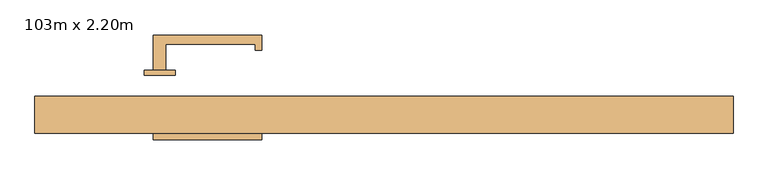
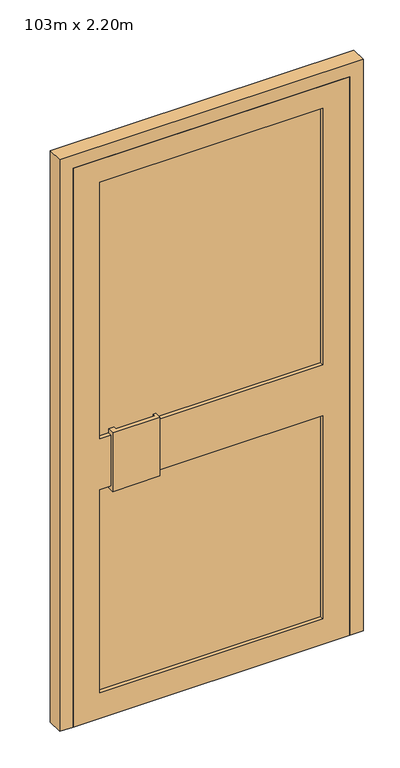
"""IFC4 building model written with IfcOpenShell, lengths in millimetres: door geometry, PVC Panneau Vitré - Traverse : 103m x 2.20m."""

from ifc_helpers import new_model, si_unit, point, frame, origin, place, context, project, spatial, polyline, ellipse_curve, trimmed, outline, extrude, faceted_brep, source, transform, mapped, element, save
from ifc_brep_helpers import plane_surface, extruded_surface, advanced_brep


def door_103m_x_2_20m_767e410a(model_context):
    return source(origin(), model_context, "Body", "SolidModel", [
        advanced_brep(
        [(-338.2140438, -40.7312497, 875.0), (-338.2140438, -40.7312497, 1125.0), (-388.2140438, -40.7312497, 1125.0), (-388.2140438, -40.7312497, 875.0), (-363.1067757, -40.7312497, 953.6170149), (-363.1067757, -40.7312497, 913.6170149), (-338.2140438, -32.7312497, 875.0), (-388.2140438, -32.7312497, 875.0), (-388.2140438, -32.7312497, 1125.0), (-338.2140438, -32.7312497, 1125.0), (-363.1067757, -32.7312497, 953.6170149), (-363.1067757, -32.7312497, 913.6170149)],
        [
            (0, 1),
            (1, 2),
            (2, 3),
            (3, 0),
            (4, 5, ellipse_curve(frame((-363.1067757, -40.7312497, 933.6170149), z_axis=(0.0, 1.0, 0.0), x_axis=(0.0, 0.0, -1.0)), 20.0, 7.0010983)),
            (5, 4, ellipse_curve(frame((-363.1067757, -40.7312497, 933.6170149), z_axis=(0.0, 1.0, 0.0), x_axis=(0.0, 0.0, -1.0)), 20.0, 7.0010983)),
            (6, 7),
            (7, 8),
            (8, 9),
            (9, 6),
            (10, 11, ellipse_curve(frame((-363.1067757, -32.7312497, 933.6170149), z_axis=(0.0, -1.0, 0.0), x_axis=(0.0, 0.0, -1.0)), 20.0, 7.0010983)),
            (11, 10, ellipse_curve(frame((-363.1067757, -32.7312497, 933.6170149), z_axis=(0.0, -1.0, 0.0), x_axis=(0.0, 0.0, -1.0)), 20.0, 7.0010983)),
            (0, 6),
            (9, 1),
            (8, 2),
            (7, 3),
            (4, 10),
            (11, 5),
        ],
        [
            plane_surface(frame((-338.2140438, -40.7312497, 1100.0), z_axis=(0.0, -1.0, 0.0), x_axis=(0.0, 0.0, 1.0))),
            plane_surface(frame((-338.2140438, -32.7312497, 1100.0), z_axis=(0.0, 1.0, 0.0), x_axis=(0.0, 0.0, -1.0))),
            plane_surface(frame((-338.2140438, -40.7312497, 875.0), z_axis=(1.0, 0.0, 0.0), x_axis=(0.0, 1.0, 0.0))),
            plane_surface(frame((-338.2140438, -40.7312497, 1125.0), z_axis=(0.0, 0.0, 1.0), x_axis=(0.0, 1.0, 0.0))),
            plane_surface(frame((-388.2140438, -40.7312497, 1125.0), z_axis=(-1.0, 0.0, 0.0), x_axis=(0.0, 1.0, 0.0))),
            plane_surface(frame((-388.2140438, -40.7312497, 875.0), z_axis=(0.0, 0.0, -1.0), x_axis=(0.0, 1.0, 0.0))),
            extruded_surface(trimmed(ellipse_curve(frame((-363.1067757, -24.7312497, 933.6170149), z_axis=(0.0, 1.0, 0.0), x_axis=(0.0, 0.0, -1.0)), 20.0, 7.0010983), [point((-363.1067757, -24.7312497, 953.6170149))], [point((-363.1067757, -24.7312497, 913.6170149))], True, "CARTESIAN"), (0.0, -8.0, 0.0), 8.0),
            extruded_surface(trimmed(ellipse_curve(frame((-363.1067757, -24.7312497, 933.6170149), z_axis=(0.0, 1.0, 0.0), x_axis=(0.0, 0.0, -1.0)), 20.0, 7.0010983), [point((-363.1067757, -24.7312497, 913.6170149))], [point((-363.1067757, -24.7312497, 953.6170149))], True, "CARTESIAN"), (0.0, -8.0, 0.0), 8.0),
        ],
        [
            (0, [[1, 2, 3, 4], [5, 6]]),
            (1, [[7, 8, 9, 10], [11, 12]]),
            (2, [[-1, 13, -10, 14]]),
            (3, [[-2, -14, -9, 15]]),
            (4, [[-3, -15, -8, 16]]),
            (5, [[-4, -16, -7, -13]]),
            (6, [[-5, 17, -12, 18]]),
            (7, [[-6, -18, -11, -17]]),
        ],
    ),
        extrude(outline(polyline([(-373.5, 24.0969165), (-198.2140438, 24.0969165), (-198.2140438, -0.9030835), (-208.2140438, -0.9030835), (-208.2140438, 9.0969165), (-353.5, 9.0969165), (-353.5, -32.7312497), (-373.5, -32.7312497), (-373.5, 24.0969165)])), frame((0.0, 0.0, 883.8962493), z_axis=(0.0, 0.0, 1.0), x_axis=(1.0, 0.0, 0.0)), (0.0, 0.0, 1.0), 231.5058955),
        extrude(outline(polyline([(-373.5, -145.5594159), (-373.5, -88.7312497), (-353.5, -88.7312497), (-353.5, -130.5594159), (-208.2140438, -130.5594159), (-208.2140438, -120.5594159), (-198.2140438, -120.5594159), (-198.2140438, -145.5594159), (-373.5, -145.5594159)])), frame((0.0, 0.0, 883.8962493), z_axis=(0.0, 0.0, 1.0), x_axis=(1.0, 0.0, 0.0)), (0.0, 0.0, 1.0), 231.5058955),
        advanced_brep(
        [(-338.2140438, -88.7312497, 875.0), (-338.2140438, -88.7312497, 1125.0), (-388.2140438, -88.7312497, 1125.0), (-388.2140438, -88.7312497, 875.0), (-363.1067757, -88.7312497, 953.6170149), (-363.1067757, -88.7312497, 913.6170149), (-338.2140438, -80.7312497, 875.0), (-388.2140438, -80.7312497, 875.0), (-388.2140438, -80.7312497, 1125.0), (-338.2140438, -80.7312497, 1125.0), (-363.1067757, -80.7312497, 953.6170149), (-363.1067757, -80.7312497, 913.6170149)],
        [
            (0, 1),
            (1, 2),
            (2, 3),
            (3, 0),
            (4, 5, ellipse_curve(frame((-363.1067757, -88.7312497, 933.6170149), z_axis=(0.0, 1.0, 0.0), x_axis=(0.0, 0.0, -1.0)), 20.0, 7.0010983)),
            (5, 4, ellipse_curve(frame((-363.1067757, -88.7312497, 933.6170149), z_axis=(0.0, 1.0, 0.0), x_axis=(0.0, 0.0, -1.0)), 20.0, 7.0010983)),
            (6, 7),
            (7, 8),
            (8, 9),
            (9, 6),
            (10, 11, ellipse_curve(frame((-363.1067757, -80.7312497, 933.6170149), z_axis=(0.0, -1.0, 0.0), x_axis=(0.0, 0.0, -1.0)), 20.0, 7.0010983)),
            (11, 10, ellipse_curve(frame((-363.1067757, -80.7312497, 933.6170149), z_axis=(0.0, -1.0, 0.0), x_axis=(0.0, 0.0, -1.0)), 20.0, 7.0010983)),
            (0, 6),
            (9, 1),
            (8, 2),
            (7, 3),
            (4, 10),
            (11, 5),
        ],
        [
            plane_surface(frame((-338.2140438, -88.7312497, 1100.0), z_axis=(0.0, -1.0, 0.0), x_axis=(0.0, 0.0, 1.0))),
            plane_surface(frame((-338.2140438, -80.7312497, 1100.0), z_axis=(0.0, 1.0, 0.0), x_axis=(0.0, 0.0, -1.0))),
            plane_surface(frame((-338.2140438, -88.7312497, 875.0), z_axis=(1.0, 0.0, 0.0), x_axis=(0.0, 1.0, 0.0))),
            plane_surface(frame((-338.2140438, -88.7312497, 1125.0), z_axis=(0.0, 0.0, 1.0), x_axis=(0.0, 1.0, 0.0))),
            plane_surface(frame((-388.2140438, -88.7312497, 1125.0), z_axis=(-1.0, 0.0, 0.0), x_axis=(0.0, 1.0, 0.0))),
            plane_surface(frame((-388.2140438, -88.7312497, 875.0), z_axis=(0.0, 0.0, -1.0), x_axis=(0.0, 1.0, 0.0))),
            extruded_surface(trimmed(ellipse_curve(frame((-363.1067757, -72.7312497, 933.6170149), z_axis=(0.0, 1.0, 0.0), x_axis=(0.0, 0.0, -1.0)), 20.0, 7.0010983), [point((-363.1067757, -72.7312497, 953.6170149))], [point((-363.1067757, -72.7312497, 913.6170149))], True, "CARTESIAN"), (0.0, -8.0, 0.0), 8.0),
            extruded_surface(trimmed(ellipse_curve(frame((-363.1067757, -72.7312497, 933.6170149), z_axis=(0.0, 1.0, 0.0), x_axis=(0.0, 0.0, -1.0)), 20.0, 7.0010983), [point((-363.1067757, -72.7312497, 913.6170149))], [point((-363.1067757, -72.7312497, 953.6170149))], True, "CARTESIAN"), (0.0, -8.0, 0.0), 8.0),
        ],
        [
            (0, [[1, 2, 3, 4], [5, 6]]),
            (1, [[7, 8, 9, 10], [11, 12]]),
            (2, [[-1, 13, -10, 14]]),
            (3, [[-2, -14, -9, 15]]),
            (4, [[-3, -15, -8, 16]]),
            (5, [[-4, -16, -7, -13]]),
            (6, [[-5, 17, -12, 18]]),
            (7, [[-6, -18, -11, -17]]),
        ],
    ),
        faceted_brep([(-565.0, -135.0, 0.0), (-565.0, -75.0, 0.0), (-500.0, -75.0, 0.0), (-500.0, -95.0, 0.0), (-515.0, -95.0, 0.0), (-515.0, -135.0, 0.0), (-565.0, -135.0, 2250.0), (-565.0, -75.0, 2250.0), (565.0, -75.0, 2250.0), (565.0, -75.0, 0.0), (500.0, -75.0, 0.0), (500.0, -75.0, 2185.0), (-500.0, -75.0, 2185.0), (-500.0, -95.0, 2185.0), (500.0, -95.0, 2185.0), (500.0, -95.0, 0.0), (515.0, -95.0, 0.0), (515.0, -95.0, 2200.0), (-515.0, -95.0, 2200.0), (-515.0, -135.0, 2200.0), (515.0, -135.0, 2200.0), (515.0, -135.0, 0.0), (565.0, -135.0, 0.0), (565.0, -135.0, 2250.0)], [[[0, 1, 2, 3, 4, 5]], [[1, 0, 6, 7]], [[2, 1, 7, 8, 9, 10, 11, 12]], [[3, 2, 12, 13]], [[4, 3, 13, 14, 15, 16, 17, 18]], [[5, 4, 18, 19]], [[0, 5, 19, 20, 21, 22, 23, 6]], [[8, 23, 22, 9]], [[22, 21, 16, 15, 10, 9]], [[14, 11, 10, 15]], [[20, 17, 16, 21]], [[7, 6, 23, 8]], [[13, 12, 11, 14]], [[19, 18, 17, 20]]]),
        extrude(outline(polyline([(415.0, -120.0), (-415.0, -120.0), (-415.0, -110.0), (415.0, -110.0), (415.0, -120.0)])), frame((0.0, 0.0, 1100.0), z_axis=(0.0, 0.0, 1.0), x_axis=(1.0, 0.0, 0.0)), (0.0, 0.0, 1.0), 1010.0),
        extrude(outline(polyline([(415.0, -120.0), (-415.0, -120.0), (-415.0, -110.0), (415.0, -110.0), (415.0, -120.0)])), frame((0.0, 0.0, 100.0), z_axis=(0.0, 0.0, 1.0), x_axis=(1.0, 0.0, 0.0)), (0.0, 0.0, 1.0), 800.0),
        extrude(outline(polyline([(2200.0, -515.0), (0.0, -515.0), (0.0, 515.0), (2200.0, 515.0), (2200.0, -515.0)]), holes=[polyline([(2110.0, 415.0), (1100.0, 415.0), (1100.0, -415.0), (2110.0, -415.0), (2110.0, 415.0)]), polyline([(100.0, 415.0), (100.0, -415.0), (900.0, -415.0), (900.0, 415.0), (100.0, 415.0)])]), frame((0.0, -135.0, 0.0), z_axis=(0.0, 1.0, 0.0), x_axis=(0.0, 0.0, 1.0)), (0.0, 0.0, 1.0), 40.0),
    ])


if __name__ == "__main__":
    model = new_model("IFC4")
    model_context = context("Model", 3, world=origin())
    ifc_project = project(units=[si_unit("LENGTHUNIT", "METRE", prefix="MILLI")], contexts=[model_context])
    site = spatial("IfcSite", under=ifc_project)
    building = spatial("IfcBuilding", under=site)
    placement = place(None, origin())
    door_103m_x_2_20m_shape = door_103m_x_2_20m_767e410a(model_context)
    element("IfcDoor", 1, ObjectType="PVC Panneau Vitré - Traverse : 103m x 2.20m", at=placement, inside=building, context=model_context, shape_type="MappedRepresentation", body=[
        mapped(door_103m_x_2_20m_shape, transform((0.0, 0.0, 0.0), x_axis=(1.0, 0.0, 0.0), y_axis=(0.0, 1.0, 0.0), z_axis=(0.0, 0.0, 1.0))),
    ])
    save(model, "model.ifc")
